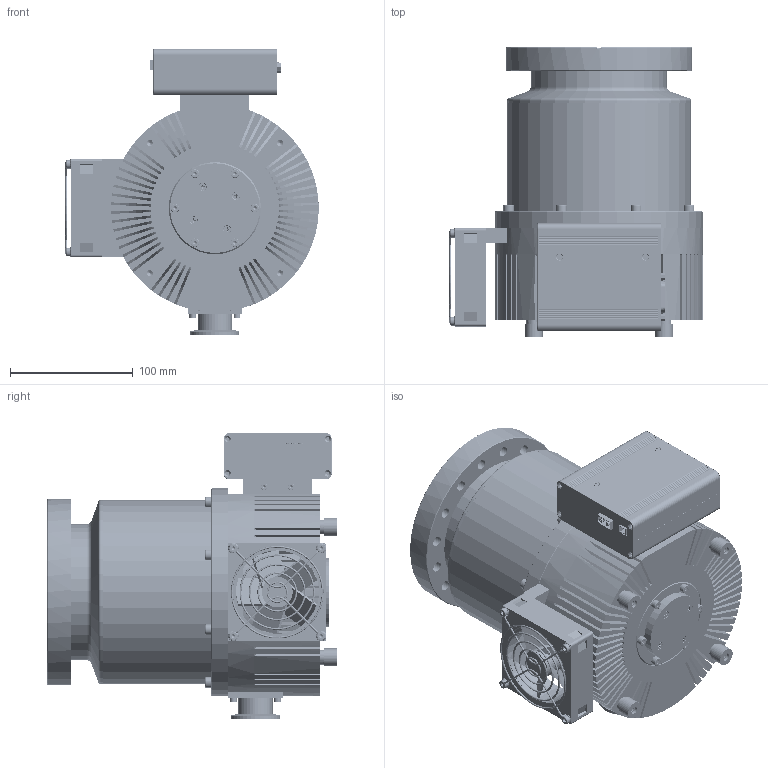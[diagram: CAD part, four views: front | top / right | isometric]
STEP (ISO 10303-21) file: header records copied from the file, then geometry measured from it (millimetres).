
FILE_DESCRIPTION (( 'STEP AP214' ), '1' );
FILE_NAME ('JTFB300SJ-00A-daokou.STEP', '2025-08-14T02:25:12', ( '' ), ( '' ), 'SwSTEP 2.0', 'SolidWorks 2023', '' );
FILE_SCHEMA (( 'AUTOMOTIVE_DESIGN' ));
Length unit declared in the file: millimetre
Products named in the file (41): 80风扇安装座25-4-125-4-28; hexagon socket head cap screws gb(GB_FASTENER_SCREWS_HSHCS M5X10-N); PCBA_ITF_____1.STEP; MP24D-BR2.04______1.STEP; hexagon socket head cap screws gb(GB_FASTENER_SCREWS_HSHCS M5X25-N); MP24D-BR2.06______1.STEP; PCBA BR2 _____1.STEP; JTFB300S-02A-25-4-125-4-28; 3.96-3P_______1.STEP; 零件35; MP24D-BR2.05________1.STEP; hexagon socket head cap screws gb(GB_FASTENER_SCREWS_HSHCS M3X12-N); JTFB300Z后座25-4-125-4-28; JTFB300-23-25-4-125-4-28; JTFB300-20-25-4-125-4-28; hexagon socket head cap screws gb(GB_FASTENER_SCREWS_HSHCS M4X20-N); DB15 ___1.STEP; MP24D-BR2.01________1.STEP; PCBA_IFT_BR2_1.STEP; JTFB300J-05-0225-4-2825-7-12-1; ____ _____1.STEP; 零件36; JTFB300SJ-00A-daokou; JTFB300D-05-01-00A25-4-2825-7-12; 300一体电源25-8-14; JTFB300-21FLDK25-4-125-4-28; JTFB-300同步电源固定板--2-25-4-28; 80风扇25-4-125-4-28; JTFB300D-05-00A25-4-2825-7-12; JTFB300D-05-01-02A25-4-2825-7-12-1; JTFB300D-05-01-01B25-4-2825-7-12-3; 300同步风扇防护网25-8-14; JTFB-300底盖25-4-125-4-28; 电源接头MX15-8--25-4-125-4-28; MP24D-BR2_装配体_1.STEP; MP24D-BR2.02_______.STEP; MP24D-BR2.03______1.STEP; ________ M2.5x6_1.STEP; cross recessed ctsk wood screws gb(GB_WOOD_SCREWS_TYPE135 3X12-N); M3x10 ________ _1.STEP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
Assembly tree (77 placements, depth 5):
  JTFB300SJ-00A-daokou
    JTFB300D-05-00A25-4-2825-7-12
      JTFB300D-05-01-00A25-4-2825-7-12
        JTFB300D-05-01-02A25-4-2825-7-12-1
        JTFB300D-05-01-01B25-4-2825-7-12-3
      JTFB300J-05-0225-4-2825-7-12-1
    JTFB300S-02A-25-4-125-4-28
    JTFB300-23-25-4-125-4-28
    电源接头MX15-8--25-4-125-4-28
    JTFB-300同步电源固定板5-4-28
    JTFB-300同步电源固定板--2-25-4-28
    80风扇25-4-125-4-28
    80风扇安装座25-4-125-4-28
    JTFB300Z后座25-4-125-4-28
    JTFB-300底盖25-4-125-4-28
    JTFB300-21FLDK25-4-125-4-28  x4
    JTFB300-20-25-4-125-4-28  x4
    hexagon socket head cap screws gb(GB_FASTENER_SCREWS_HSHCS M5X25-N)  x8
    hexagon socket head cap screws gb(GB_FASTENER_SCREWS_HSHCS M5X10-N)  x2
    hexagon socket head cap screws gb(GB_FASTENER_SCREWS_HSHCS M4X20-N)  x10
    cross recessed ctsk wood screws gb(GB_WOOD_SCREWS_TYPE135 3X12-N)  x4
    hexagon socket head cap screws gb(GB_FASTENER_SCREWS_HSHCS M3X12-N)  x8
    300同步风扇防护网25-8-14
    300一体电源25-8-14
      MP24D-BR2_装配体_1.STEP
        PCBA_ITF_____1.STEP
          PCBA_IFT_BR2_1.STEP
          3.96-3P_______1.STEP
          ____ _____1.STEP
        PCBA BR2 _____1.STEP
          DB15 ___1.STEP
        MP24D-BR2.01________1.STEP
        MP24D-BR2.04______1.STEP
        MP24D-BR2.03______1.STEP
        MP24D-BR2.02_______.STEP
        MP24D-BR2.05________1.STEP
        MP24D-BR2.06______1.STEP
        ________ M2.5x6_1.STEP  x2
        M3x10 ________ _1.STEP  x4
      零件35
      零件36
Bounding box: 206.25 x 235.8 x 233.18 mm (x, y, z)
Volume: 2174873.2 mm3; surface area: 633267.8 mm2
Topology: 77 solids, 93 shells, 3233 faces, 8267 edges, 5280 vertices
Faces by surface type: plane 1268, cylinder 1113, bspline 462, cone 313, torus 77
Full cylindrical faces by diameter (mm): 1.5 x24, 2.05 x4, 2.5 x16, 3 x12, 3.3 x14, 3.4 x12, 3.5 x6, 4 x10, 4.2 x20, 4.5 x10, 5 x14, 5.5 x16, 6 x12, 6.5 x4, 7 x14, 8 x6, 8.5 x30, 10 x5, 11.5 x4, 12 x5, 14.5 x4, 15 x3, 17 x1, 20 x1, 25 x4, 26.2 x1, 27 x1, 28 x1, 28.3 x2, 29 x1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
Entity records: 222721 total; most frequent: CARTESIAN_POINT 166421, ORIENTED_EDGE 12490, DIRECTION 9521, EDGE_CURVE 6260, VERTEX_POINT 4261, AXIS2_PLACEMENT_3D 3524, EDGE_LOOP 3288, FACE_OUTER_BOUND 2796
